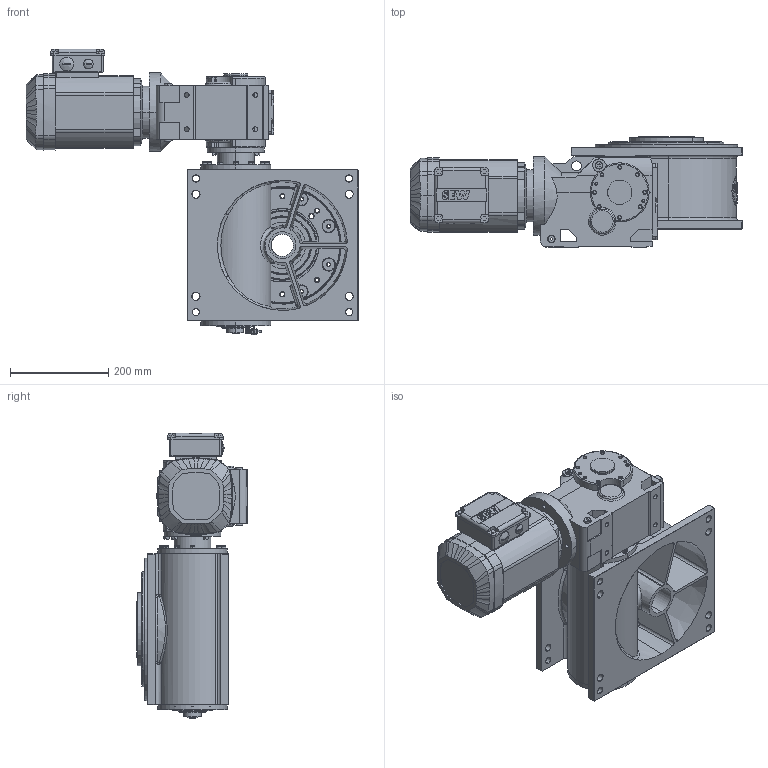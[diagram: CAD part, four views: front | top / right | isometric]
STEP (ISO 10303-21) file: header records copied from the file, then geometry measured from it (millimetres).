
FILE_DESCRIPTION (( 'STEP AP214' ), '1' );
FILE_NAME ('M235_SEW_KA47DRE80M4_D3_08.STEP', '2020-06-17T05:22:50', ( '' ), ( '' ), 'SwSTEP 2.0', 'SolidWorks 2020', '' );
FILE_SCHEMA (( 'AUTOMOTIVE_DESIGN' ));
Length unit declared in the file: millimetre
Products named in the file (1): M235_SEW_KA47DRE80M4_D3_08
Bounding box: 676 x 226 x 581.96 mm (x, y, z)
Surface area: 1148754.4 mm2 (no closed solid volume)
Topology: 0 solids, 88 shells, 1576 faces, 4835 edges, 3259 vertices
Faces by surface type: plane 605, cylinder 503, cone 243, bspline 138, torus 71, sphere 16
Entity records: 81859 total; most frequent: CARTESIAN_POINT 22203, DIRECTION 8905, ORIENTED_EDGE 8162, EDGE_CURVE 4797, VERTEX_POINT 3259, AXIS2_PLACEMENT_3D 3259, VECTOR 2387, LINE 2387
